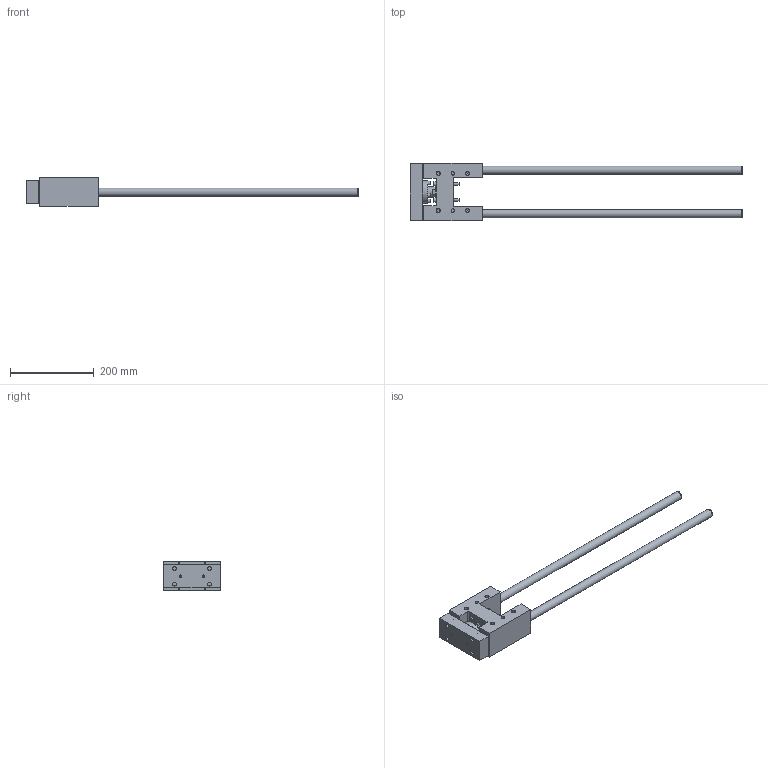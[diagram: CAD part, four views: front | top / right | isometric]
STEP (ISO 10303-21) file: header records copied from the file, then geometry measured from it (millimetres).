
FILE_DESCRIPTION( ( 'STEP AP214' ), '1' );
FILE_NAME( 'U:/Etudes/Top Solid/BIBLIO 3D AVM/TOP/PNEUMATIQUE/GUIDAGES/Type 32 (en H)/R_Renforcée/325R9_30.step', '2005-05-27T08:58:53', ( ' ' ), ( ' ' ), 'XStep 1.0', ' ', ' ' );
FILE_SCHEMA( ( 'automotive_design' ) );
Length unit declared in the file: metre
Products named in the file (2): 1; 2
Bounding box: 795 x 137 x 69 mm (x, y, z)
Volume: 1445719.6 mm3; surface area: 243715.9 mm2
Topology: 2 solids, 7 shells, 223 faces, 504 edges, 337 vertices
Faces by surface type: plane 128, cylinder 74, cone 21
Full cylindrical faces by diameter (mm): 5 x8, 6 x10, 6.5 x8, 6.647 x4, 8 x2, 8.376 x8, 8.5 x4, 9 x4, 10 x4, 10.2 x4, 10.647 x2, 15 x4, 20 x4, 24 x1, 26 x1, 34 x1, 35 x1, 37 x1, 55 x1
Entity records: 7481 total; most frequent: CARTESIAN_POINT 1145, DIRECTION 956, ORIENTED_EDGE 724, EDGE_LOOP 386, AXIS2_PLACEMENT_3D 377, EDGE_CURVE 362, FACE_OUTER_BOUND 295, VERTEX_POINT 294
